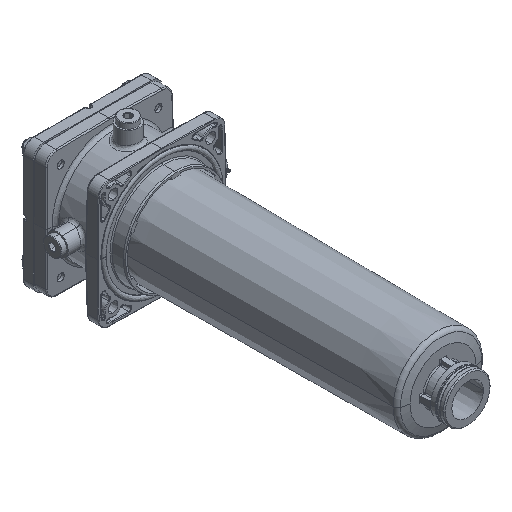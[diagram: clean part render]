
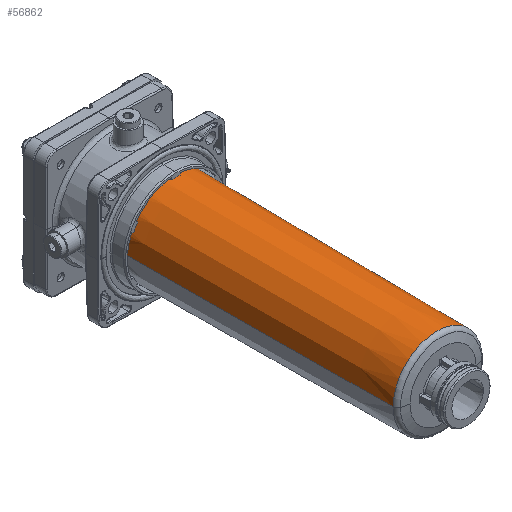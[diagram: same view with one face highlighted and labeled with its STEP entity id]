
A CAD part, isometric view. The second image highlights one B-rep face of the part: STEP entity #56862.
In plain terms, the highlighted conical face has half-angle 0.42 degrees and reference radius 41.864 mm.
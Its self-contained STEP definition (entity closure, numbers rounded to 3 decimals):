
#54418=CARTESIAN_POINT('',(0.,-16.784,0.));
#54419=DIRECTION('',(0.,1.,0.));
#54420=DIRECTION('',(-1.,0.,0.));
#54421=AXIS2_PLACEMENT_3D('',#54418,#54419,#54420);
#54426=DIRECTION('',(-0.007,1.,0.));
#54427=VECTOR('',#54426,266.799);
#54428=CARTESIAN_POINT('',(-40.885,-16.784,
0.));
#54429=LINE('',#54428,#54427);
#54433=CARTESIAN_POINT('',(0.,250.007,0.));
#54434=DIRECTION('',(0.,-1.,0.));
#54435=DIRECTION('',(1.,0.,0.));
#54436=AXIS2_PLACEMENT_3D('',#54433,#54434,#54435);
#54441=DIRECTION('',(0.007,1.,0.));
#54442=VECTOR('',#54441,266.799);
#54443=CARTESIAN_POINT('',(40.885,-16.784,
0.));
#54444=LINE('',#54443,#54442);
#56468=CARTESIAN_POINT('',(-42.843,250.007,0.));
#56469=CARTESIAN_POINT('',(42.843,250.007,0.));
#56470=VERTEX_POINT('',#56468);
#56471=VERTEX_POINT('',#56469);
#56476=CARTESIAN_POINT('',(-40.885,-16.784,0.));
#56477=CARTESIAN_POINT('',(40.885,-16.784,0.));
#56478=VERTEX_POINT('',#56476);
#56479=VERTEX_POINT('',#56477);
#56848=CARTESIAN_POINT('',(0.,116.611,0.));
#56849=DIRECTION('',(0.,1.,0.));
#56850=DIRECTION('',(1.,0.,0.));
#56851=AXIS2_PLACEMENT_3D('',#56848,#56849,#56850);
#56852=CONICAL_SURFACE('',#56851,41.864,0.42);
#56854=ORIENTED_EDGE('',*,*,#56853,.F.);
#56856=ORIENTED_EDGE('',*,*,#56855,.T.);
#56857=ORIENTED_EDGE('',*,*,#56842,.F.);
#56859=ORIENTED_EDGE('',*,*,#56858,.F.);
#56860=EDGE_LOOP('',(#56854,#56856,#56857,#56859));
#56861=FACE_OUTER_BOUND('',#56860,.F.);
#54422=CIRCLE('',#54421,40.885);
#54437=CIRCLE('',#54436,42.843);
#56842=EDGE_CURVE('',#56471,#56470,#54437,.T.);
#56853=EDGE_CURVE('',#56478,#56479,#54422,.T.);
#56855=EDGE_CURVE('',#56478,#56470,#54429,.T.);
#56858=EDGE_CURVE('',#56479,#56471,#54444,.T.);
#56862=ADVANCED_FACE('',(#56861),#56852,.T.);
